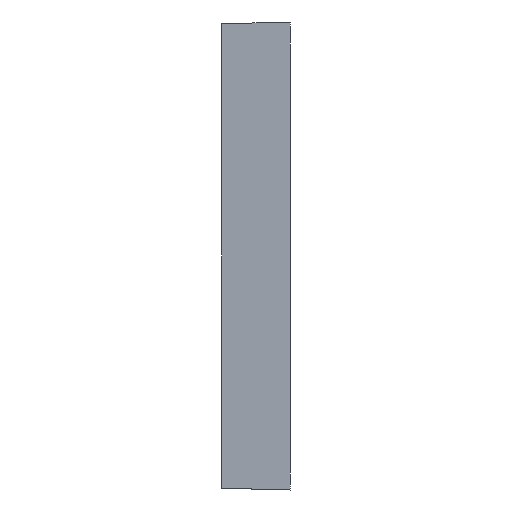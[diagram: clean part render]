
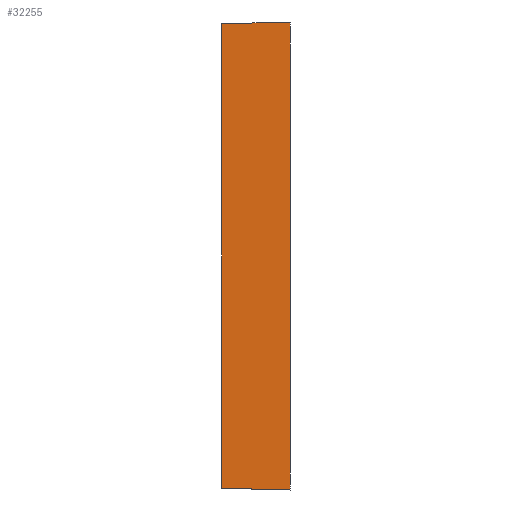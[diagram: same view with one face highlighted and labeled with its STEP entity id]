
A CAD part, left-side view. The second image highlights one B-rep face of the part: STEP entity #32255.
In plain terms, the highlighted planar face has unit normal (-1, 0.026, 0).
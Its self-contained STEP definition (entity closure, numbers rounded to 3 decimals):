
#2392 = DIRECTION ( 'NONE',  ( -0.026, -0.999, 0.026 ) ) ;
#3452 = VERTEX_POINT ( 'NONE', #18079 ) ;
#3689 = VECTOR ( 'NONE', #2392, 1000. ) ;
#4266 = DIRECTION ( 'NONE',  ( -0.026, -0.999, -0.026 ) ) ;
#5800 = ORIENTED_EDGE ( 'NONE', *, *, #8149, .F. ) ;
#8149 = EDGE_CURVE ( 'NONE', #17843, #31642, #20044, .T. ) ;
#9051 = VERTEX_POINT ( 'NONE', #18239 ) ;
#9985 = DIRECTION ( 'NONE',  ( 0., 0., 1. ) ) ;
#13680 = LINE ( 'NONE', #23503, #19858 ) ;
#14223 = AXIS2_PLACEMENT_3D ( 'NONE', #25199, #30165, #30331 ) ;
#14434 = ORIENTED_EDGE ( 'NONE', *, *, #26215, .F. ) ;
#14697 = FACE_OUTER_BOUND ( 'NONE', #20774, .T. ) ;
#15213 = ORIENTED_EDGE ( 'NONE', *, *, #21779, .T. ) ;
#17565 = CARTESIAN_POINT ( 'NONE',  ( -222.5, 0., 157.5 ) ) ;
#17843 = VERTEX_POINT ( 'NONE', #31240 ) ;
#18079 = CARTESIAN_POINT ( 'NONE',  ( -222.5, 0., -157.5 ) ) ;
#18239 = CARTESIAN_POINT ( 'NONE',  ( -221.295, 46., -156.295 ) ) ;
#18505 = ORIENTED_EDGE ( 'NONE', *, *, #28451, .T. ) ;
#19858 = VECTOR ( 'NONE', #28984, 1000. ) ;
#20044 = LINE ( 'NONE', #17565, #3689 ) ;
#20194 = VECTOR ( 'NONE', #9985, 1000. ) ;
#20774 = EDGE_LOOP ( 'NONE', ( #15213, #5800, #14434, #18505 ) ) ;
#21779 = EDGE_CURVE ( 'NONE', #3452, #31642, #13680, .T. ) ;
#23503 = CARTESIAN_POINT ( 'NONE',  ( -222.5, 0., -157.5 ) ) ;
#25043 = PLANE ( 'NONE',  #14223 ) ;
#25149 = CARTESIAN_POINT ( 'NONE',  ( -221.295, 46., -157.5 ) ) ;
#25199 = CARTESIAN_POINT ( 'NONE',  ( -222.5, 0., -157.5 ) ) ;
#26215 = EDGE_CURVE ( 'NONE', #9051, #17843, #32601, .T. ) ;
#26912 = LINE ( 'NONE', #27240, #31457 ) ;
#27240 = CARTESIAN_POINT ( 'NONE',  ( -222.5, 0., -157.5 ) ) ;
#28451 = EDGE_CURVE ( 'NONE', #9051, #3452, #26912, .T. ) ;
#28984 = DIRECTION ( 'NONE',  ( 0., 0., 1. ) ) ;
#30165 = DIRECTION ( 'NONE',  ( -1., 0.026, 0. ) ) ;
#30331 = DIRECTION ( 'NONE',  ( -0.026, -1., 0. ) ) ;
#31240 = CARTESIAN_POINT ( 'NONE',  ( -221.295, 46., 156.295 ) ) ;
#31457 = VECTOR ( 'NONE', #4266, 1000. ) ;
#31642 = VERTEX_POINT ( 'NONE', #31676 ) ;
#31676 = CARTESIAN_POINT ( 'NONE',  ( -222.5, 0., 157.5 ) ) ;
#32255 = ADVANCED_FACE ( 'NONE', ( #14697 ), #25043, .T. ) ;
#32601 = LINE ( 'NONE', #25149, #20194 ) ;
